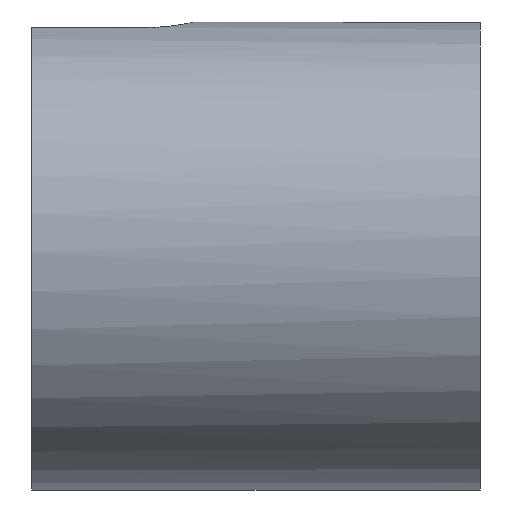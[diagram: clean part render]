
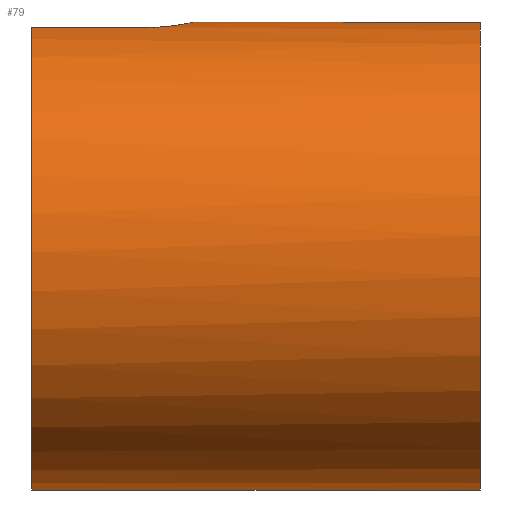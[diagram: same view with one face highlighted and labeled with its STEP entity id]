
A CAD part, front view. The second image highlights one B-rep face of the part: STEP entity #79.
In plain terms, the highlighted cylindrical face has radius 11.5 mm (diameter 23 mm), a partial arc.
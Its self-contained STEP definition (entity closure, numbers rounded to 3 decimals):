
#79 = ADVANCED_FACE( '', ( #94 ), #95, .T. );
#94 = FACE_OUTER_BOUND( '', #114, .T. );
#95 = CYLINDRICAL_SURFACE( '', #115, 11.5 );
#114 = EDGE_LOOP( '', ( #158, #159, #160, #161, #162, #163, #164, #165 ) );
#115 = AXIS2_PLACEMENT_3D( '', #166, #167, #168 );
#158 = ORIENTED_EDGE( '', *, *, #220, .F. );
#159 = ORIENTED_EDGE( '', *, *, #219, .T. );
#160 = ORIENTED_EDGE( '', *, *, #215, .F. );
#161 = ORIENTED_EDGE( '', *, *, #221, .F. );
#162 = ORIENTED_EDGE( '', *, *, #222, .T. );
#163 = ORIENTED_EDGE( '', *, *, #223, .T. );
#164 = ORIENTED_EDGE( '', *, *, #224, .T. );
#165 = ORIENTED_EDGE( '', *, *, #205, .F. );
#166 = CARTESIAN_POINT( '', ( -60., 0., 0. ) );
#167 = DIRECTION( '', ( 1., 0., 0. ) );
#168 = DIRECTION( '', ( 0., 0., 1. ) );
#205 = EDGE_CURVE( '', #228, #231, #232, .T. );
#215 = EDGE_CURVE( '', #249, #250, #251, .F. );
#219 = EDGE_CURVE( '', #254, #250, #256, .T. );
#220 = EDGE_CURVE( '', #254, #228, #257, .T. );
#221 = EDGE_CURVE( '', #258, #249, #259, .T. );
#222 = EDGE_CURVE( '', #258, #260, #261, .F. );
#223 = EDGE_CURVE( '', #260, #262, #263, .T. );
#224 = EDGE_CURVE( '', #262, #231, #264, .T. );
#228 = VERTEX_POINT( '', #268 );
#231 = VERTEX_POINT( '', #272 );
#232 = CIRCLE( '', #273, 11.5 );
#249 = VERTEX_POINT( '', #350 );
#250 = VERTEX_POINT( '', #351 );
#251 = LINE( '', #352, #353 );
#254 = VERTEX_POINT( '', #358 );
#256 = CIRCLE( '', #361, 11.5 );
#257 = LINE( '', #362, #363 );
#258 = VERTEX_POINT( '', #364 );
#259 = CIRCLE( '', #365, 11.5 );
#260 = VERTEX_POINT( '', #366 );
#261 = LINE( '', #367, #368 );
#262 = VERTEX_POINT( '', #369 );
#263 = B_SPLINE_CURVE_WITH_KNOTS( '', 3, ( #370, #371, #372, #373, #374, #375, #376, #377, #378, #379, #380, #381, #382, #383, #384, #385, #386, #387, #388, #389, #390, #391, #392, #393, #394, #395, #396, #397, #398, #399, #400, #401 ), .UNSPECIFIED., .F., .F., ( 4, 2, 2, 2, 2, 2, 2, 2, 2, 2, 2, 2, 2, 2, 2, 4 ), ( 0., 0., 0.001, 0.001, 0.002, 0.003, 0.003, 0.004, 0.004, 0.005, 0.005, 0.006, 0.006, 0.007, 0.007, 0.008 ), .UNSPECIFIED. );
#264 = LINE( '', #402, #403 );
#268 = CARTESIAN_POINT( '', ( -22., -1., -11.456 ) );
#272 = CARTESIAN_POINT( '', ( -22., -2.5, 11.225 ) );
#273 = AXIS2_PLACEMENT_3D( '', #411, #412, #413 );
#350 = CARTESIAN_POINT( '', ( -22., 1., -11.456 ) );
#351 = CARTESIAN_POINT( '', ( 0., 1., -11.456 ) );
#352 = CARTESIAN_POINT( '', ( -60., 1., -11.456 ) );
#353 = VECTOR( '', #424, 1000. );
#358 = CARTESIAN_POINT( '', ( 0., -1., -11.456 ) );
#361 = AXIS2_PLACEMENT_3D( '', #428, #429, #430 );
#362 = CARTESIAN_POINT( '', ( -60., -1., -11.456 ) );
#363 = VECTOR( '', #431, 1000. );
#364 = CARTESIAN_POINT( '', ( -22., 2.5, 11.225 ) );
#365 = AXIS2_PLACEMENT_3D( '', #432, #433, #434 );
#366 = CARTESIAN_POINT( '', ( -16.5, 2.5, 11.225 ) );
#367 = CARTESIAN_POINT( '', ( -60., 2.5, 11.225 ) );
#368 = VECTOR( '', #435, 1000. );
#369 = CARTESIAN_POINT( '', ( -16.5, -2.5, 11.225 ) );
#370 = CARTESIAN_POINT( '', ( -16.5, 2.5, 11.225 ) );
#371 = CARTESIAN_POINT( '', ( -16.334, 2.5, 11.225 ) );
#372 = CARTESIAN_POINT( '', ( -16.172, 2.484, 11.229 ) );
#373 = CARTESIAN_POINT( '', ( -15.851, 2.42, 11.243 ) );
#374 = CARTESIAN_POINT( '', ( -15.692, 2.372, 11.253 ) );
#375 = CARTESIAN_POINT( '', ( -15.39, 2.246, 11.279 ) );
#376 = CARTESIAN_POINT( '', ( -15.247, 2.169, 11.294 ) );
#377 = CARTESIAN_POINT( '', ( -14.975, 1.988, 11.327 ) );
#378 = CARTESIAN_POINT( '', ( -14.847, 1.883, 11.345 ) );
#379 = CARTESIAN_POINT( '', ( -14.502, 1.538, 11.399 ) );
#380 = CARTESIAN_POINT( '', ( -14.316, 1.26, 11.435 ) );
#381 = CARTESIAN_POINT( '', ( -14.129, 0.809, 11.472 ) );
#382 = CARTESIAN_POINT( '', ( -14.081, 0.651, 11.483 ) );
#383 = CARTESIAN_POINT( '', ( -14.016, 0.328, 11.496 ) );
#384 = CARTESIAN_POINT( '', ( -14., 0.166, 11.5 ) );
#385 = CARTESIAN_POINT( '', ( -14., -0.161, 11.5 ) );
#386 = CARTESIAN_POINT( '', ( -14.016, -0.328, 11.496 ) );
#387 = CARTESIAN_POINT( '', ( -14.08, -0.649, 11.483 ) );
#388 = CARTESIAN_POINT( '', ( -14.127, -0.805, 11.473 ) );
#389 = CARTESIAN_POINT( '', ( -14.253, -1.108, 11.448 ) );
#390 = CARTESIAN_POINT( '', ( -14.331, -1.254, 11.432 ) );
#391 = CARTESIAN_POINT( '', ( -14.512, -1.524, 11.399 ) );
#392 = CARTESIAN_POINT( '', ( -14.615, -1.651, 11.382 ) );
#393 = CARTESIAN_POINT( '', ( -14.847, -1.883, 11.345 ) );
#394 = CARTESIAN_POINT( '', ( -14.973, -1.986, 11.328 ) );
#395 = CARTESIAN_POINT( '', ( -15.243, -2.167, 11.294 ) );
#396 = CARTESIAN_POINT( '', ( -15.389, -2.246, 11.279 ) );
#397 = CARTESIAN_POINT( '', ( -15.691, -2.371, 11.253 ) );
#398 = CARTESIAN_POINT( '', ( -15.847, -2.419, 11.243 ) );
#399 = CARTESIAN_POINT( '', ( -16.168, -2.483, 11.229 ) );
#400 = CARTESIAN_POINT( '', ( -16.334, -2.5, 11.225 ) );
#401 = CARTESIAN_POINT( '', ( -16.5, -2.5, 11.225 ) );
#402 = CARTESIAN_POINT( '', ( -60., -2.5, 11.225 ) );
#403 = VECTOR( '', #436, 1000. );
#411 = CARTESIAN_POINT( '', ( -22., 0., 0. ) );
#412 = DIRECTION( '', ( -1., 0., 0. ) );
#413 = DIRECTION( '', ( 0., 0., 1. ) );
#424 = DIRECTION( '', ( -1., 0., 0. ) );
#428 = CARTESIAN_POINT( '', ( 0., 0., 0. ) );
#429 = DIRECTION( '', ( -1., 0., 0. ) );
#430 = DIRECTION( '', ( 0., 0., 1. ) );
#431 = DIRECTION( '', ( -1., 0., 0. ) );
#432 = CARTESIAN_POINT( '', ( -22., 0., 0. ) );
#433 = DIRECTION( '', ( -1., 0., 0. ) );
#434 = DIRECTION( '', ( 0., 0., 1. ) );
#435 = DIRECTION( '', ( -1., 0., 0. ) );
#436 = DIRECTION( '', ( -1., 0., 0. ) );
